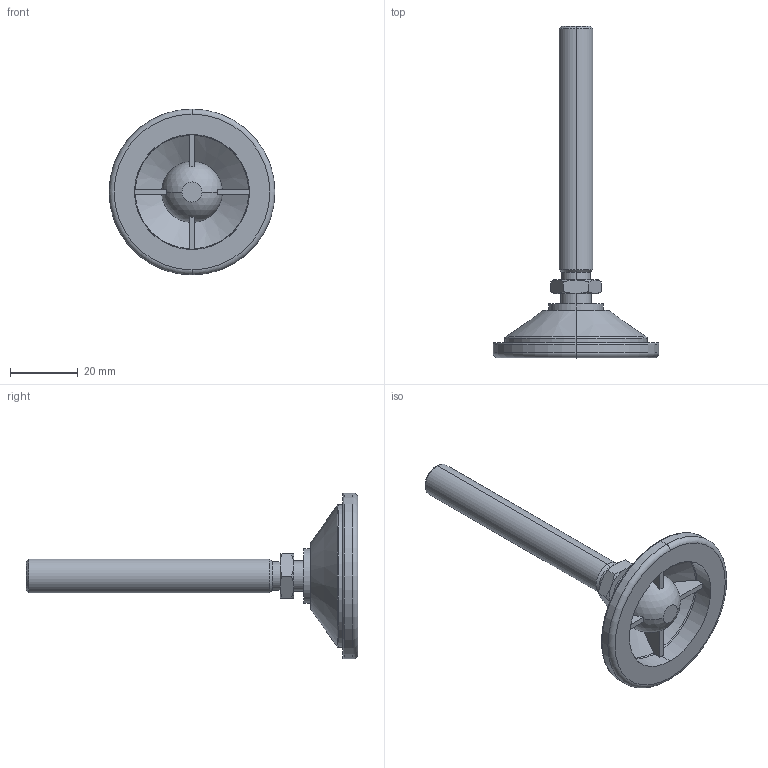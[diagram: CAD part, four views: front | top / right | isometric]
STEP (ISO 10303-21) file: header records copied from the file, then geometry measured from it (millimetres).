
FILE_DESCRIPTION (( 'STEP AP203' ), '1' );
FILE_NAME ('3472.W105.step', '2009-10-21T16:59:27', ( 'Wixroyd' ), ( 'Wixroyd' ), 'SwSTEP 2.0', 'SolidWorks 2009', '' );
FILE_SCHEMA (( 'CONFIG_CONTROL_DESIGN' ));
Length unit declared in the file: millimetre
Products named in the file (3): Part1_3472W105; Part2_3472W105; 3472.W105
Assembly tree (2 placements, depth 2):
  3472.W105
    Part1_3472W105
    Part2_3472W105
Bounding box: 49 x 98 x 49 mm (x, y, z)
Volume: 17317.2 mm3; surface area: 10348.1 mm2
Topology: 2 solids, 2 shells, 94 faces, 229 edges, 143 vertices
Faces by surface type: plane 38, cone 22, cylinder 16, torus 12, sphere 6
Entity records: 3159 total; most frequent: CARTESIAN_POINT 659, DIRECTION 508, ORIENTED_EDGE 442, AXIS2_PLACEMENT_3D 228, EDGE_CURVE 221, VERTEX_POINT 139, CIRCLE 129, EDGE_LOOP 102
